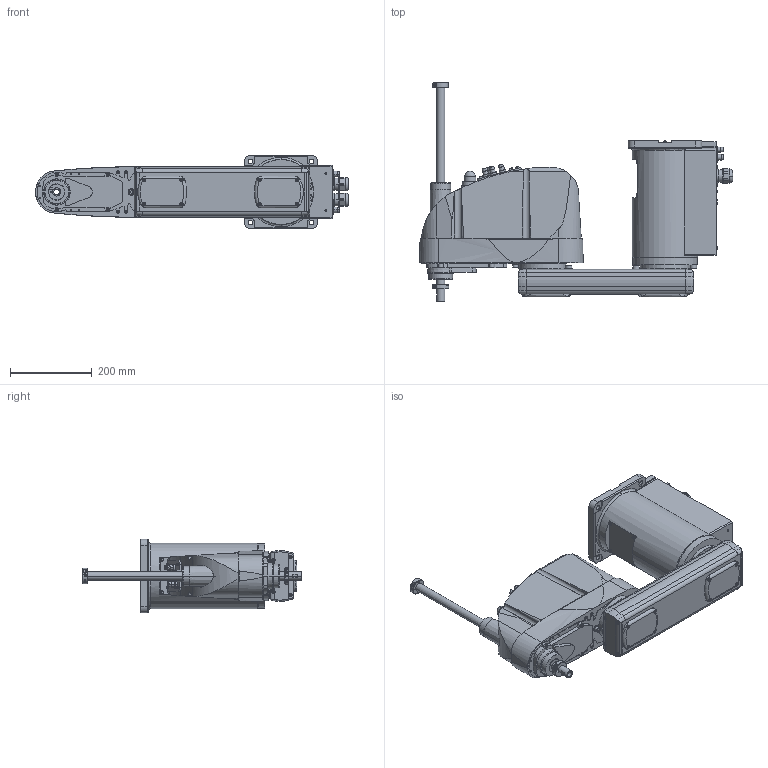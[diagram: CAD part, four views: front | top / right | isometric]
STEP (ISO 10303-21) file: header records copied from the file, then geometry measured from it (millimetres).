
FILE_DESCRIPTION( ( '' ), '1' );
FILE_NAME( '//expscmdclustefs.cadenas.external/client_exchange/iodir/jobs/output/wkb51535910_no0/STEP/G6_553SR_2_03.stp', '2012-11-23T09:27:46', ( '' ), ( '' ), ' ', ' ', ' ' );
FILE_SCHEMA( ( 'CONFIG_CONTROL_DESIGN' ) );
Length unit declared in the file: millimetre
Products named in the file (4): 1; 2; 3; 4
Bounding box: 767.5 x 535 x 180 mm (x, y, z)
Volume: 20188874.1 mm3; surface area: 886897.4 mm2
Topology: 4 solids, 4 shells, 1607 faces, 3933 edges, 2535 vertices
Faces by surface type: plane 823, cylinder 554, cone 202, torus 27, sphere 1
Entity records: 50418 total; most frequent: CARTESIAN_POINT 11572, DIRECTION 8268, ORIENTED_EDGE 7814, EDGE_CURVE 3907, AXIS2_PLACEMENT_3D 2951, VERTEX_POINT 2535, LINE 2366, VECTOR 2366
